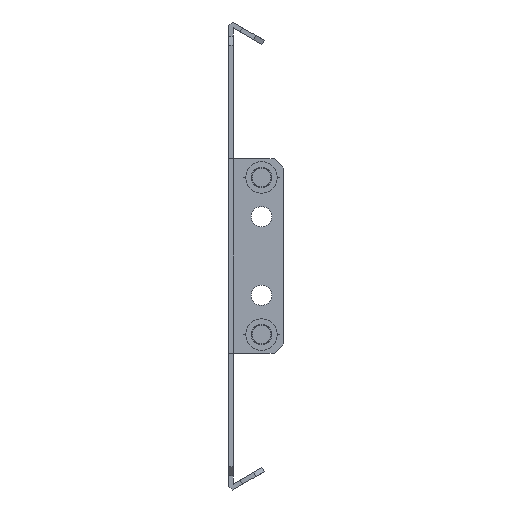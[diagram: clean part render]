
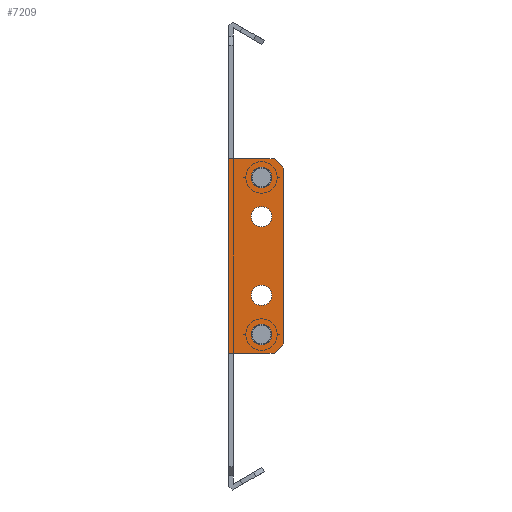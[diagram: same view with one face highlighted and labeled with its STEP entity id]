
A CAD part, front view. The second image highlights one B-rep face of the part: STEP entity #7209.
In plain terms, the highlighted planar face has unit normal (0, -1, 0).
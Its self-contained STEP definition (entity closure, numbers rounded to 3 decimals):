
#74 = CARTESIAN_POINT ( 'NONE',  ( 2.663, -254.211, 25.547 ) ) ;
#99 = VECTOR ( 'NONE', #4998, 1000. ) ;
#142 = ORIENTED_EDGE ( 'NONE', *, *, #1256, .F. ) ;
#162 = ORIENTED_EDGE ( 'NONE', *, *, #7157, .T. ) ;
#186 = CARTESIAN_POINT ( 'NONE',  ( -0.587, -254.211, -11.953 ) ) ;
#208 = CARTESIAN_POINT ( 'NONE',  ( -0.587, -254.211, 13.047 ) ) ;
#228 = CIRCLE ( 'NONE', #6983, 3.25 ) ;
#236 = EDGE_CURVE ( 'NONE', #2083, #7773, #1517, .T. ) ;
#329 = DIRECTION ( 'NONE',  ( 1., 0., 0. ) ) ;
#411 = ORIENTED_EDGE ( 'NONE', *, *, #9403, .F. ) ;
#432 = EDGE_CURVE ( 'NONE', #4394, #669, #2821, .T. ) ;
#449 = VECTOR ( 'NONE', #1003, 1000. ) ;
#507 = CARTESIAN_POINT ( 'NONE',  ( 5.913, -254.211, -24.453 ) ) ;
#544 = CARTESIAN_POINT ( 'NONE',  ( -5.337, -254.211, 31.547 ) ) ;
#628 = AXIS2_PLACEMENT_3D ( 'NONE', #4411, #3657, #2939 ) ;
#669 = VERTEX_POINT ( 'NONE', #4369 ) ;
#767 = ORIENTED_EDGE ( 'NONE', *, *, #7998, .T. ) ;
#900 = ORIENTED_EDGE ( 'NONE', *, *, #7231, .T. ) ;
#914 = VERTEX_POINT ( 'NONE', #186 ) ;
#926 = DIRECTION ( 'NONE',  ( -1., 0., 0. ) ) ;
#1003 = DIRECTION ( 'NONE',  ( -1., 0., 0. ) ) ;
#1074 = FACE_BOUND ( 'NONE', #6617, .T. ) ;
#1111 = CARTESIAN_POINT ( 'NONE',  ( 2.663, -254.211, -11.953 ) ) ;
#1243 = CIRCLE ( 'NONE', #9746, 3.25 ) ;
#1256 = EDGE_CURVE ( 'NONE', #669, #4394, #228, .T. ) ;
#1368 = VERTEX_POINT ( 'NONE', #6266 ) ;
#1446 = CARTESIAN_POINT ( 'NONE',  ( -7.837, -254.211, 0.547 ) ) ;
#1456 = CARTESIAN_POINT ( 'NONE',  ( 5.913, -254.211, 25.547 ) ) ;
#1517 = LINE ( 'NONE', #4041, #2334 ) ;
#1728 = CARTESIAN_POINT ( 'NONE',  ( -7.837, -254.211, 0.547 ) ) ;
#1876 = VECTOR ( 'NONE', #3972, 1000. ) ;
#1934 = VERTEX_POINT ( 'NONE', #507 ) ;
#2010 = DIRECTION ( 'NONE',  ( -1., 0., 0. ) ) ;
#2083 = VERTEX_POINT ( 'NONE', #6934 ) ;
#2234 = DIRECTION ( 'NONE',  ( -1., 0., 0. ) ) ;
#2321 = ORIENTED_EDGE ( 'NONE', *, *, #432, .F. ) ;
#2334 = VECTOR ( 'NONE', #3939, 1000. ) ;
#2507 = CARTESIAN_POINT ( 'NONE',  ( -7.837, -254.211, -30.453 ) ) ;
#2674 = AXIS2_PLACEMENT_3D ( 'NONE', #2867, #9807, #4279 ) ;
#2681 = DIRECTION ( 'NONE',  ( 0., 1., 0. ) ) ;
#2687 = CARTESIAN_POINT ( 'NONE',  ( 2.663, -254.211, -24.453 ) ) ;
#2716 = EDGE_CURVE ( 'NONE', #4000, #4523, #4470, .T. ) ;
#2719 = DIRECTION ( 'NONE',  ( 0., -1., 0. ) ) ;
#2750 = EDGE_LOOP ( 'NONE', ( #142, #2321 ) ) ;
#2797 = DIRECTION ( 'NONE',  ( -1., 0., 0. ) ) ;
#2821 = CIRCLE ( 'NONE', #9075, 3.25 ) ;
#2867 = CARTESIAN_POINT ( 'NONE',  ( 2.663, -254.211, -11.953 ) ) ;
#2939 = DIRECTION ( 'NONE',  ( -1., 0., 0. ) ) ;
#2987 = CARTESIAN_POINT ( 'NONE',  ( 6.663, -254.211, 31.547 ) ) ;
#3006 = ORIENTED_EDGE ( 'NONE', *, *, #7730, .F. ) ;
#3477 = CARTESIAN_POINT ( 'NONE',  ( -7.837, -254.211, 31.547 ) ) ;
#3657 = DIRECTION ( 'NONE',  ( 0., -1., 0. ) ) ;
#3672 = CARTESIAN_POINT ( 'NONE',  ( 9.663, -254.211, -27.453 ) ) ;
#3695 = AXIS2_PLACEMENT_3D ( 'NONE', #1111, #2719, #7939 ) ;
#3740 = VERTEX_POINT ( 'NONE', #4777 ) ;
#3814 = EDGE_CURVE ( 'NONE', #914, #7182, #8843, .T. ) ;
#3824 = DIRECTION ( 'NONE',  ( -1., 0., 0. ) ) ;
#3905 = DIRECTION ( 'NONE',  ( 1., 0., 0. ) ) ;
#3919 = DIRECTION ( 'NONE',  ( 0., -1., 0. ) ) ;
#3939 = DIRECTION ( 'NONE',  ( 0.707, 0., 0.707 ) ) ;
#3972 = DIRECTION ( 'NONE',  ( -1., 0., 0. ) ) ;
#4000 = VERTEX_POINT ( 'NONE', #3477 ) ;
#4041 = CARTESIAN_POINT ( 'NONE',  ( 9.663, -254.211, -27.453 ) ) ;
#4093 = CARTESIAN_POINT ( 'NONE',  ( 2.663, -254.211, 13.047 ) ) ;
#4138 = VERTEX_POINT ( 'NONE', #9224 ) ;
#4147 = FACE_BOUND ( 'NONE', #7660, .T. ) ;
#4198 = LINE ( 'NONE', #4795, #99 ) ;
#4279 = DIRECTION ( 'NONE',  ( -1., 0., 0. ) ) ;
#4369 = CARTESIAN_POINT ( 'NONE',  ( -0.587, -254.211, 25.547 ) ) ;
#4394 = VERTEX_POINT ( 'NONE', #1456 ) ;
#4411 = CARTESIAN_POINT ( 'NONE',  ( 2.663, -254.211, 13.047 ) ) ;
#4470 = LINE ( 'NONE', #1446, #4554 ) ;
#4523 = VERTEX_POINT ( 'NONE', #2507 ) ;
#4554 = VECTOR ( 'NONE', #6024, 1000. ) ;
#4563 = VERTEX_POINT ( 'NONE', #208 ) ;
#4574 = EDGE_LOOP ( 'NONE', ( #4677, #9652 ) ) ;
#4677 = ORIENTED_EDGE ( 'NONE', *, *, #5477, .F. ) ;
#4764 = AXIS2_PLACEMENT_3D ( 'NONE', #8905, #7407, #2010 ) ;
#4777 = CARTESIAN_POINT ( 'NONE',  ( 5.913, -254.211, 13.047 ) ) ;
#4795 = CARTESIAN_POINT ( 'NONE',  ( 9.663, -254.211, 0.547 ) ) ;
#4850 = DIRECTION ( 'NONE',  ( 0., -1., 0. ) ) ;
#4916 = CIRCLE ( 'NONE', #4764, 3.25 ) ;
#4998 = DIRECTION ( 'NONE',  ( 0., 0., 1. ) ) ;
#5126 = VECTOR ( 'NONE', #3905, 1000. ) ;
#5131 = ORIENTED_EDGE ( 'NONE', *, *, #3814, .F. ) ;
#5213 = EDGE_CURVE ( 'NONE', #6956, #4000, #8990, .T. ) ;
#5415 = EDGE_CURVE ( 'NONE', #6672, #2083, #6271, .T. ) ;
#5477 = EDGE_CURVE ( 'NONE', #4138, #1934, #8816, .T. ) ;
#5658 = DIRECTION ( 'NONE',  ( -0.707, 0., 0.707 ) ) ;
#6024 = DIRECTION ( 'NONE',  ( 0., 0., -1. ) ) ;
#6266 = CARTESIAN_POINT ( 'NONE',  ( 9.663, -254.211, 28.547 ) ) ;
#6271 = LINE ( 'NONE', #7728, #5126 ) ;
#6353 = FACE_BOUND ( 'NONE', #4574, .T. ) ;
#6372 = ORIENTED_EDGE ( 'NONE', *, *, #5415, .T. ) ;
#6504 = CARTESIAN_POINT ( 'NONE',  ( 6.663, -254.211, 31.547 ) ) ;
#6573 = VERTEX_POINT ( 'NONE', #2987 ) ;
#6594 = EDGE_CURVE ( 'NONE', #4563, #3740, #9446, .T. ) ;
#6617 = EDGE_LOOP ( 'NONE', ( #8429, #8026 ) ) ;
#6626 = CARTESIAN_POINT ( 'NONE',  ( -5.337, -254.211, 31.547 ) ) ;
#6672 = VERTEX_POINT ( 'NONE', #8426 ) ;
#6934 = CARTESIAN_POINT ( 'NONE',  ( 6.663, -254.211, -30.453 ) ) ;
#6943 = CARTESIAN_POINT ( 'NONE',  ( 2.663, -254.211, 25.547 ) ) ;
#6956 = VERTEX_POINT ( 'NONE', #6626 ) ;
#6983 = AXIS2_PLACEMENT_3D ( 'NONE', #74, #9268, #2234 ) ;
#7023 = CIRCLE ( 'NONE', #2674, 3.25 ) ;
#7046 = CARTESIAN_POINT ( 'NONE',  ( -7.837, -254.211, -30.453 ) ) ;
#7157 = EDGE_CURVE ( 'NONE', #1368, #6573, #7864, .T. ) ;
#7163 = CARTESIAN_POINT ( 'NONE',  ( 5.913, -254.211, -11.953 ) ) ;
#7182 = VERTEX_POINT ( 'NONE', #7163 ) ;
#7209 = ADVANCED_FACE ( 'NONE', ( #9364, #1074, #6353, #4147, #8062 ), #9561, .F. ) ;
#7231 = EDGE_CURVE ( 'NONE', #7773, #1368, #4198, .T. ) ;
#7407 = DIRECTION ( 'NONE',  ( 0., -1., 0. ) ) ;
#7653 = AXIS2_PLACEMENT_3D ( 'NONE', #1728, #2681, #329 ) ;
#7660 = EDGE_LOOP ( 'NONE', ( #5131, #3006 ) ) ;
#7728 = CARTESIAN_POINT ( 'NONE',  ( -7.837, -254.211, -30.453 ) ) ;
#7730 = EDGE_CURVE ( 'NONE', #7182, #914, #7023, .T. ) ;
#7773 = VERTEX_POINT ( 'NONE', #3672 ) ;
#7864 = LINE ( 'NONE', #6504, #9567 ) ;
#7891 = LINE ( 'NONE', #9298, #449 ) ;
#7909 = DIRECTION ( 'NONE',  ( 0., -1., 0. ) ) ;
#7932 = ORIENTED_EDGE ( 'NONE', *, *, #5213, .T. ) ;
#7939 = DIRECTION ( 'NONE',  ( -1., 0., 0. ) ) ;
#7998 = EDGE_CURVE ( 'NONE', #6573, #6956, #7891, .T. ) ;
#8026 = ORIENTED_EDGE ( 'NONE', *, *, #9849, .F. ) ;
#8062 = FACE_OUTER_BOUND ( 'NONE', #9035, .T. ) ;
#8426 = CARTESIAN_POINT ( 'NONE',  ( -5.337, -254.211, -30.453 ) ) ;
#8429 = ORIENTED_EDGE ( 'NONE', *, *, #6594, .F. ) ;
#8586 = LINE ( 'NONE', #7046, #1876 ) ;
#8678 = ORIENTED_EDGE ( 'NONE', *, *, #2716, .T. ) ;
#8809 = VECTOR ( 'NONE', #2797, 1000. ) ;
#8816 = CIRCLE ( 'NONE', #9928, 3.25 ) ;
#8843 = CIRCLE ( 'NONE', #3695, 3.25 ) ;
#8905 = CARTESIAN_POINT ( 'NONE',  ( 2.663, -254.211, -24.453 ) ) ;
#8990 = LINE ( 'NONE', #544, #8809 ) ;
#9035 = EDGE_LOOP ( 'NONE', ( #900, #162, #767, #7932, #8678, #411, #6372, #9195 ) ) ;
#9075 = AXIS2_PLACEMENT_3D ( 'NONE', #6943, #3919, #3824 ) ;
#9166 = EDGE_CURVE ( 'NONE', #1934, #4138, #4916, .T. ) ;
#9195 = ORIENTED_EDGE ( 'NONE', *, *, #236, .T. ) ;
#9224 = CARTESIAN_POINT ( 'NONE',  ( -0.587, -254.211, -24.453 ) ) ;
#9268 = DIRECTION ( 'NONE',  ( 0., -1., 0. ) ) ;
#9298 = CARTESIAN_POINT ( 'NONE',  ( -7.837, -254.211, 31.547 ) ) ;
#9364 = FACE_BOUND ( 'NONE', #2750, .T. ) ;
#9371 = DIRECTION ( 'NONE',  ( -1., 0., 0. ) ) ;
#9403 = EDGE_CURVE ( 'NONE', #6672, #4523, #8586, .T. ) ;
#9446 = CIRCLE ( 'NONE', #628, 3.25 ) ;
#9561 = PLANE ( 'NONE',  #7653 ) ;
#9567 = VECTOR ( 'NONE', #5658, 1000. ) ;
#9652 = ORIENTED_EDGE ( 'NONE', *, *, #9166, .F. ) ;
#9746 = AXIS2_PLACEMENT_3D ( 'NONE', #4093, #7909, #926 ) ;
#9807 = DIRECTION ( 'NONE',  ( 0., -1., 0. ) ) ;
#9849 = EDGE_CURVE ( 'NONE', #3740, #4563, #1243, .T. ) ;
#9928 = AXIS2_PLACEMENT_3D ( 'NONE', #2687, #4850, #9371 ) ;
